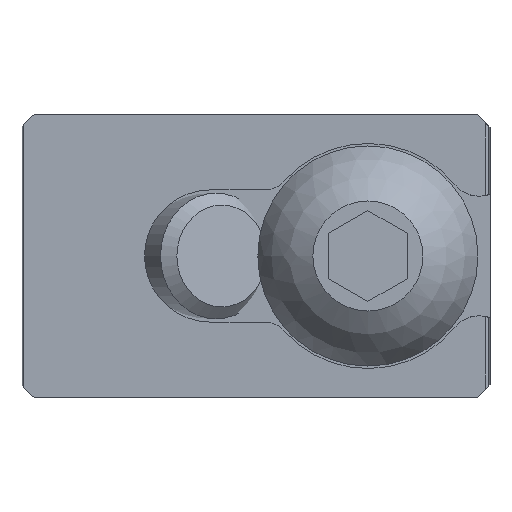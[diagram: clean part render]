
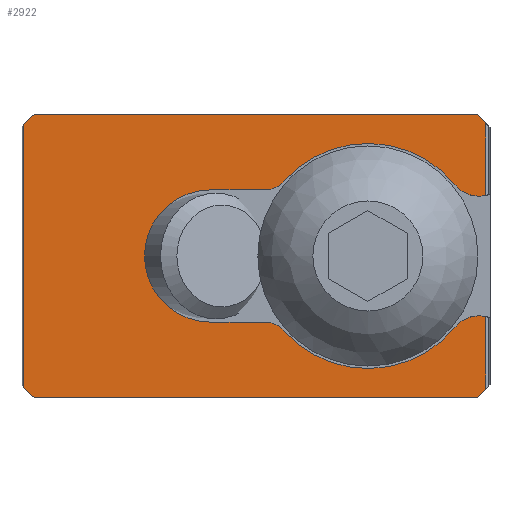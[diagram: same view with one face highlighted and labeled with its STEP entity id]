
A CAD part, front view. The second image highlights one B-rep face of the part: STEP entity #2922.
In plain terms, the highlighted planar face has unit normal (0, -1, 0).
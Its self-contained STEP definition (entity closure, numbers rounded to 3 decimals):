
#57=CIRCLE('',#3086,1.993);
#58=CIRCLE('',#3087,7.157);
#59=CIRCLE('',#3088,1.493);
#60=CIRCLE('',#3089,4.207);
#61=CIRCLE('',#3090,1.493);
#62=CIRCLE('',#3091,7.157);
#63=CIRCLE('',#3092,1.993);
#166=ORIENTED_EDGE('',*,*,#1034,.T.);
#167=ORIENTED_EDGE('',*,*,#1036,.F.);
#168=ORIENTED_EDGE('',*,*,#1037,.T.);
#169=ORIENTED_EDGE('',*,*,#1038,.F.);
#170=ORIENTED_EDGE('',*,*,#1039,.F.);
#171=ORIENTED_EDGE('',*,*,#1040,.F.);
#172=ORIENTED_EDGE('',*,*,#1041,.F.);
#173=ORIENTED_EDGE('',*,*,#1042,.F.);
#174=ORIENTED_EDGE('',*,*,#1043,.T.);
#175=ORIENTED_EDGE('',*,*,#1044,.F.);
#176=ORIENTED_EDGE('',*,*,#1045,.T.);
#177=ORIENTED_EDGE('',*,*,#1046,.F.);
#178=ORIENTED_EDGE('',*,*,#1047,.T.);
#179=ORIENTED_EDGE('',*,*,#1048,.T.);
#180=ORIENTED_EDGE('',*,*,#1049,.T.);
#181=ORIENTED_EDGE('',*,*,#1050,.F.);
#182=ORIENTED_EDGE('',*,*,#1051,.T.);
#183=ORIENTED_EDGE('',*,*,#1052,.F.);
#1034=EDGE_CURVE('',#1470,#1469,#1760,.T.);
#1036=EDGE_CURVE('',#1471,#1469,#1761,.T.);
#1037=EDGE_CURVE('',#1471,#1472,#1762,.T.);
#1038=EDGE_CURVE('',#1473,#1472,#1763,.T.);
#1039=EDGE_CURVE('',#1474,#1473,#1764,.T.);
#1040=EDGE_CURVE('',#1475,#1474,#1765,.T.);
#1041=EDGE_CURVE('',#1476,#1475,#1766,.T.);
#1042=EDGE_CURVE('',#1477,#1476,#1767,.T.);
#1043=EDGE_CURVE('',#1477,#1478,#1768,.T.);
#1044=EDGE_CURVE('',#1479,#1478,#57,.T.);
#1045=EDGE_CURVE('',#1479,#1480,#58,.T.);
#1046=EDGE_CURVE('',#1481,#1480,#59,.T.);
#1047=EDGE_CURVE('',#1481,#1482,#1769,.T.);
#1048=EDGE_CURVE('',#1482,#1483,#60,.T.);
#1049=EDGE_CURVE('',#1483,#1484,#1770,.T.);
#1050=EDGE_CURVE('',#1485,#1484,#61,.T.);
#1051=EDGE_CURVE('',#1485,#1486,#62,.T.);
#1052=EDGE_CURVE('',#1470,#1486,#63,.T.);
#1469=VERTEX_POINT('',#4110);
#1470=VERTEX_POINT('',#4112);
#1471=VERTEX_POINT('',#4119);
#1472=VERTEX_POINT('',#4121);
#1473=VERTEX_POINT('',#4123);
#1474=VERTEX_POINT('',#4125);
#1475=VERTEX_POINT('',#4127);
#1476=VERTEX_POINT('',#4129);
#1477=VERTEX_POINT('',#4131);
#1478=VERTEX_POINT('',#4133);
#1479=VERTEX_POINT('',#4135);
#1480=VERTEX_POINT('',#4137);
#1481=VERTEX_POINT('',#4139);
#1482=VERTEX_POINT('',#4141);
#1483=VERTEX_POINT('',#4143);
#1484=VERTEX_POINT('',#4145);
#1485=VERTEX_POINT('',#4147);
#1486=VERTEX_POINT('',#4149);
#1760=LINE('',#4111,#2121);
#1761=LINE('',#4118,#2122);
#1762=LINE('',#4120,#2123);
#1763=LINE('',#4122,#2124);
#1764=LINE('',#4124,#2125);
#1765=LINE('',#4126,#2126);
#1766=LINE('',#4128,#2127);
#1767=LINE('',#4130,#2128);
#1768=LINE('',#4132,#2129);
#1769=LINE('',#4140,#2130);
#1770=LINE('',#4144,#2131);
#2121=VECTOR('',#3307,1000.);
#2122=VECTOR('',#3310,1000.);
#2123=VECTOR('',#3311,1000.);
#2124=VECTOR('',#3312,1000.);
#2125=VECTOR('',#3313,1000.);
#2126=VECTOR('',#3314,1000.);
#2127=VECTOR('',#3315,1000.);
#2128=VECTOR('',#3316,1000.);
#2129=VECTOR('',#3317,1000.);
#2130=VECTOR('',#3324,1000.);
#2131=VECTOR('',#3327,1000.);
#2478=EDGE_LOOP('',(#166,#167,#168,#169,#170,#171,#172,#173,#174,#175,#176,
#177,#178,#179,#180,#181,#182,#183));
#2647=FACE_BOUND('',#2478,.T.);
#2814=PLANE('',#3085);
#2922=ADVANCED_FACE('',(#2647),#2814,.F.);
#3085=AXIS2_PLACEMENT_3D('',#4117,#3308,#3309);
#3086=AXIS2_PLACEMENT_3D('',#4134,#3318,#3319);
#3087=AXIS2_PLACEMENT_3D('',#4136,#3320,#3321);
#3088=AXIS2_PLACEMENT_3D('',#4138,#3322,#3323);
#3089=AXIS2_PLACEMENT_3D('',#4142,#3325,#3326);
#3090=AXIS2_PLACEMENT_3D('',#4146,#3328,#3329);
#3091=AXIS2_PLACEMENT_3D('',#4148,#3330,#3331);
#3092=AXIS2_PLACEMENT_3D('',#4150,#3332,#3333);
#3307=DIRECTION('',(0.,0.,-1.));
#3308=DIRECTION('',(0.,1.,0.));
#3309=DIRECTION('',(0.,0.,1.));
#3310=DIRECTION('',(-0.707,0.,0.707));
#3311=DIRECTION('',(1.,0.,0.));
#3312=DIRECTION('',(-0.707,0.,-0.707));
#3313=DIRECTION('',(0.,0.,-1.));
#3314=DIRECTION('',(0.707,0.,-0.707));
#3315=DIRECTION('',(1.,0.,0.));
#3316=DIRECTION('',(0.707,0.,0.707));
#3317=DIRECTION('',(0.,0.,-1.));
#3318=DIRECTION('',(0.,1.,0.));
#3319=DIRECTION('',(1.,0.,0.));
#3320=DIRECTION('',(0.,1.,0.));
#3321=DIRECTION('',(1.,0.,0.));
#3322=DIRECTION('',(0.,1.,0.));
#3323=DIRECTION('',(1.,0.,0.));
#3324=DIRECTION('',(1.,0.,0.));
#3325=DIRECTION('',(0.,1.,0.));
#3326=DIRECTION('',(1.,0.,0.));
#3327=DIRECTION('',(-1.,0.,0.));
#3328=DIRECTION('',(0.,1.,0.));
#3329=DIRECTION('',(1.,0.,0.));
#3330=DIRECTION('',(0.,1.,0.));
#3331=DIRECTION('',(1.,0.,0.));
#3332=DIRECTION('',(0.,1.,0.));
#3333=DIRECTION('',(1.,0.,0.));
#4110=CARTESIAN_POINT('',(-7.5,0.,-8.466));
#4111=CARTESIAN_POINT('',(-7.5,0.,9.));
#4112=CARTESIAN_POINT('',(-7.5,0.,-3.852));
#4117=CARTESIAN_POINT('',(-7.5,0.,9.));
#4118=CARTESIAN_POINT('',(-6.966,0.,-9.));
#4119=CARTESIAN_POINT('',(-6.966,0.,-9.));
#4120=CARTESIAN_POINT('',(-7.5,0.,-9.));
#4121=CARTESIAN_POINT('',(21.234,0.,-9.));
#4122=CARTESIAN_POINT('',(22.034,0.,-8.2));
#4123=CARTESIAN_POINT('',(21.9,0.,-8.334));
#4124=CARTESIAN_POINT('',(21.9,0.,9.));
#4125=CARTESIAN_POINT('',(21.9,0.,8.334));
#4126=CARTESIAN_POINT('',(21.234,0.,9.));
#4127=CARTESIAN_POINT('',(21.234,0.,9.));
#4128=CARTESIAN_POINT('',(-7.5,0.,9.));
#4129=CARTESIAN_POINT('',(-6.966,0.,9.));
#4130=CARTESIAN_POINT('',(-7.766,0.,8.2));
#4131=CARTESIAN_POINT('',(-7.5,0.,8.466));
#4132=CARTESIAN_POINT('',(-7.5,0.,9.));
#4133=CARTESIAN_POINT('',(-7.5,0.,3.852));
#4134=CARTESIAN_POINT('',(-7.077,0.,5.8));
#4135=CARTESIAN_POINT('',(-5.535,0.,4.536));
#4136=CARTESIAN_POINT('',(0.,0.,0.));
#4137=CARTESIAN_POINT('',(5.377,0.,4.723));
#4138=CARTESIAN_POINT('',(6.506,0.,5.7));
#4139=CARTESIAN_POINT('',(6.506,0.,4.207));
#4140=CARTESIAN_POINT('',(6.506,0.,4.207));
#4141=CARTESIAN_POINT('',(10.,0.,4.207));
#4142=CARTESIAN_POINT('',(10.,0.,0.));
#4143=CARTESIAN_POINT('',(10.,0.,-4.207));
#4144=CARTESIAN_POINT('',(10.,0.,-4.207));
#4145=CARTESIAN_POINT('',(6.506,0.,-4.207));
#4146=CARTESIAN_POINT('',(6.506,0.,-5.7));
#4147=CARTESIAN_POINT('',(5.377,0.,-4.723));
#4148=CARTESIAN_POINT('',(0.,0.,0.));
#4149=CARTESIAN_POINT('',(-5.535,0.,-4.536));
#4150=CARTESIAN_POINT('',(-7.077,0.,-5.8));
